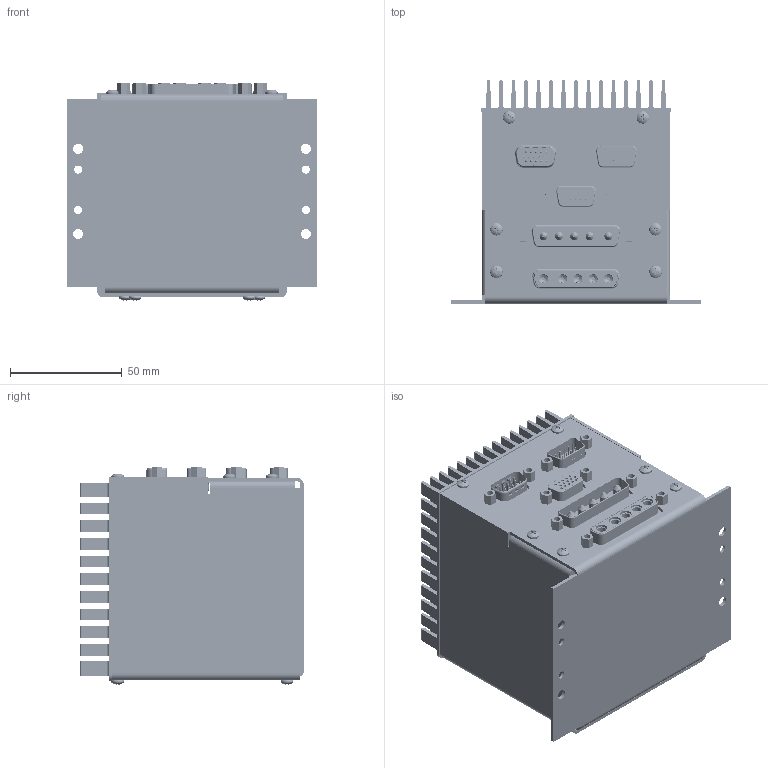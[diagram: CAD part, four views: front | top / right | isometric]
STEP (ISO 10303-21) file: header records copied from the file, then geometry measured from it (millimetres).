
FILE_DESCRIPTION(/* description */ ('Alibre Inc.'),/* implementation_level */ '2;1');
FILE_NAME(/* name */ 'export0',/* time_stamp */ '2017-08-14T10:56:14-07:00',/* author */ (''),/* organization */ (''),/* preprocessor_version */ 'ST-DEVELOPER v14',/* originating_system */ 'Alibre',/* authorisation */ '');
FILE_SCHEMA (('AUTOMOTIVE_DESIGN'));
Products named in the file (24): 680M5W5103L401
Bounding box: 112.01 x 100.08 x 97.15 mm (x, y, z)
Volume: 138018.9 mm3; surface area: 148972.4 mm2
Topology: 54 solids, 74 shells, 4667 faces, 11536 edges, 7421 vertices
Faces by surface type: plane 2434, cylinder 1541, bspline 216, cone 210, torus 208, sphere 53, revolution 5
Full cylindrical faces by diameter (mm): 0.483 x3, 0.6 x17, 0.76 x45, 0.95 x15, 1.01 x15, 1.34 x15, 1.55 x15, 2.156 x7, 2.159 x2, 2.438 x4, 2.489 x10, 2.54 x3, 2.718 x3, 2.794 x10, 2.845 x5, 2.87 x10, 3.048 x16, 3.175 x7, 3.632 x5, 3.658 x4, 3.962 x3, 4 x2, 4.15 x2, 4.3 x2, 4.496 x4, 4.763 x6, 5.258 x5, 5.3 x2, 5.563 x10
Entity records: 123721 total; most frequent: CARTESIAN_POINT 36278, ORIENTED_EDGE 19454, DIRECTION 14708, EDGE_CURVE 9727, VERTEX_POINT 6379, AXIS2_PLACEMENT_3D 5897, EDGE_LOOP 4662, FACE_BOUND 4662
